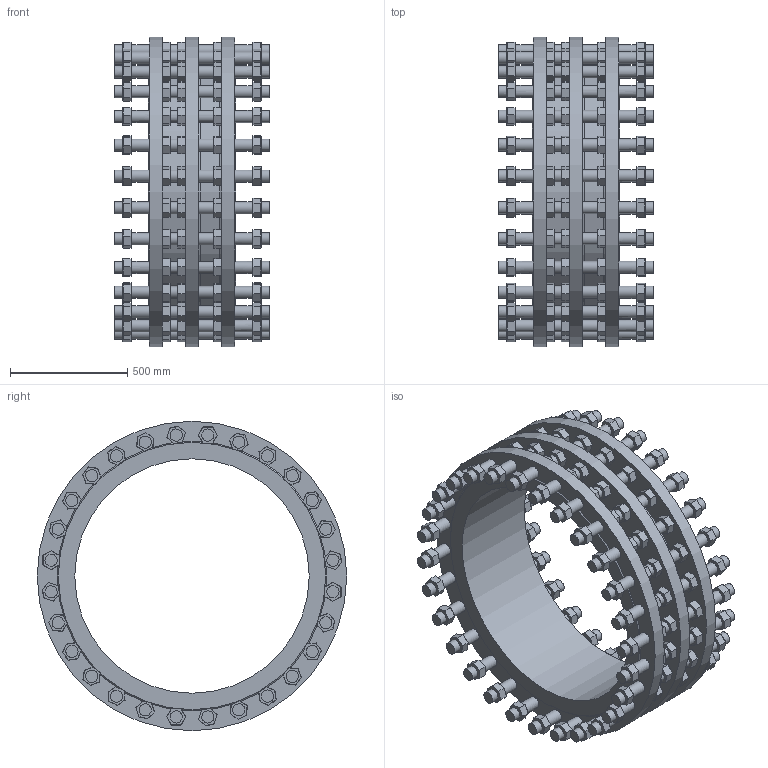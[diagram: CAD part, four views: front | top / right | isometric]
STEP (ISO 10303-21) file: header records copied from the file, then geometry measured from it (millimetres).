
FILE_DESCRIPTION (( 'STEP AP203' ), '1' );
FILE_NAME ('873100000741000.STEP', '2021-11-05T10:24:21', ( '' ), ( '' ), 'SwSTEP 2.0', 'SolidWorks 2020', '' );
FILE_SCHEMA (( 'CONFIG_CONTROL_DESIGN' ));
Length unit declared in the file: millimetre
Products named in the file (1): 873100000741000
Bounding box: 660 x 1320 x 1320 mm (x, y, z)
Volume: 154801308.8 mm3; surface area: 10403689.6 mm2
Topology: 141 solids, 141 shells, 3127 faces, 6775 edges, 3993 vertices
Faces by surface type: plane 2865, cylinder 259, cone 3
Full cylindrical faces by diameter (mm): 47 x140, 52 x112, 1000 x1, 1035 x1, 1050 x1, 1080 x1, 1320 x3
Entity records: 79929 total; most frequent: CARTESIAN_POINT 13414, DIRECTION 13182, ORIENTED_EDGE 12806, EDGE_CURVE 6403, VECTOR 5880, LINE 5880, VERTEX_POINT 3883, EDGE_LOOP 3846
